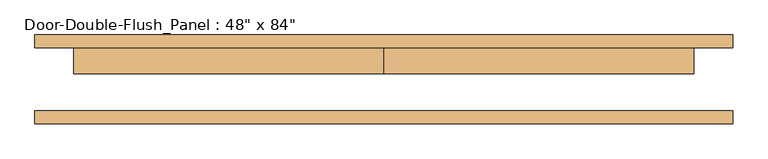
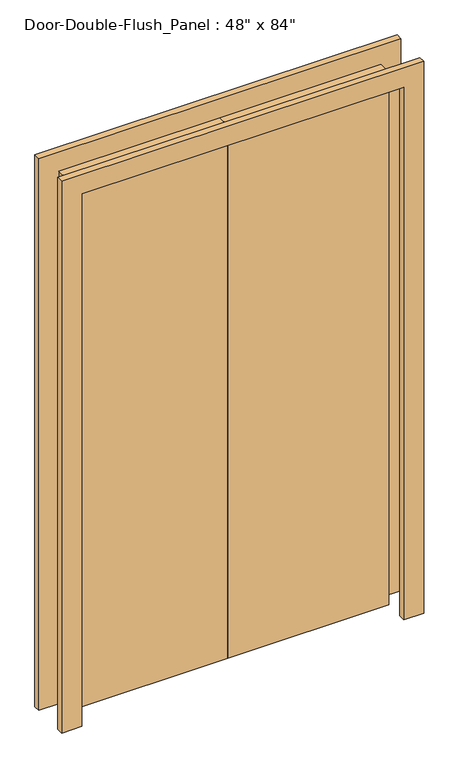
"""IFC4 building model written with IfcOpenShell, lengths in millimetres: door geometry."""

from ifc_helpers import new_model, si_unit, frame, origin, origin_with_axes, place, context, project, spatial, polyline, outline, extrude, source, transform, mapped, element, save


def door_4331e645(model_context):
    return source(origin(), model_context, "Body", "SweptSolid", [
        extrude(outline(polyline([(2133.6, -609.6), (2133.6, 609.6), (0.0, 609.6), (0.0, 685.8), (2209.8, 685.8), (2209.8, -685.8), (0.0, -685.8), (0.0, -609.6), (2133.6, -609.6)])), frame((0.0, -87.3125, 0.0), z_axis=(0.0, 1.0, 0.0), x_axis=(0.0, 0.0, 1.0)), (0.0, 0.0, 1.0), 25.4),
        extrude(outline(polyline([(2133.6, -609.6), (2133.6, 609.6), (0.0, 609.6), (0.0, 685.8), (2209.8, 685.8), (2209.8, -685.8), (0.0, -685.8), (0.0, -609.6), (2133.6, -609.6)])), frame((0.0, 61.9125, 0.0), z_axis=(0.0, 1.0, 0.0), x_axis=(0.0, 0.0, 1.0)), (0.0, 0.0, 1.0), 25.4),
        extrude(outline(polyline([(0.0, 61.9125), (609.6, 61.9125), (609.6, 11.1125), (0.0, 11.1125), (0.0, 61.9125)])), origin_with_axes(), (0.0, 0.0, 1.0), 2133.6),
        extrude(outline(polyline([(-609.6, 61.9125), (0.0, 61.9125), (0.0, 11.1125), (-609.6, 11.1125), (-609.6, 61.9125)])), origin_with_axes(), (0.0, 0.0, 1.0), 2133.6),
    ])


if __name__ == "__main__":
    model = new_model("IFC4")
    model_context = context("Model", 3, world=origin())
    ifc_project = project(units=[si_unit("LENGTHUNIT", "METRE", prefix="MILLI")], contexts=[model_context])
    site = spatial("IfcSite", under=ifc_project)
    building = spatial("IfcBuilding", under=site)
    placement = place(None, origin())
    door_shape = door_4331e645(model_context)
    element("IfcDoor", 1, ObjectType="Door-Double-Flush_Panel : 48\" x 84\"", at=placement, inside=building, context=model_context, shape_type="MappedRepresentation", body=[
        mapped(door_shape, transform((0.0, 0.0, 0.0), x_axis=(1.0, 0.0, 0.0), y_axis=(0.0, 1.0, 0.0), z_axis=(0.0, 0.0, 1.0))),
    ])
    save(model, "model.ifc")
